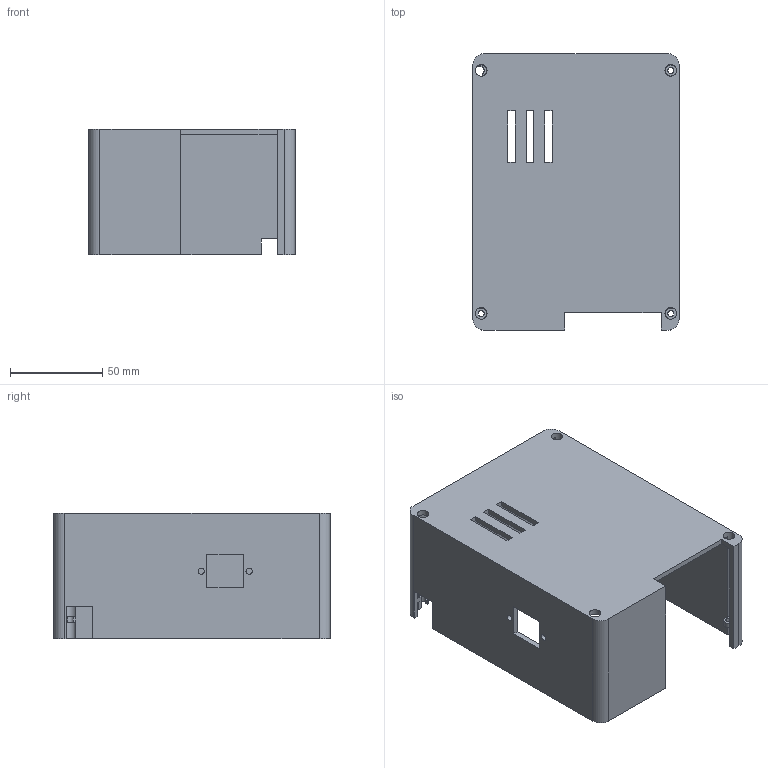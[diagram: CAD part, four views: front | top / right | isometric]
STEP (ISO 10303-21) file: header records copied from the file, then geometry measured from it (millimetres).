
FILE_DESCRIPTION(('Open CASCADE Model'),'2;1');
FILE_NAME('Open CASCADE Shape Model','2026-10-05T06:01:09',('Author'),( 'Open CASCADE'),'Open CASCADE STEP processor 7.8','Open CASCADE 7.8' ,'Unknown');
FILE_SCHEMA(('AUTOMOTIVE_DESIGN { 1 0 10303 214 1 1 1 1 }'));
Length unit declared in the file: millimetre
Products named in the file (1): Open CASCADE STEP translator 7.8 4
Bounding box: 112 x 150 x 68 mm (x, y, z)
Volume: 130683.8 mm3; surface area: 92667.5 mm2
Topology: 1 solids, 1 shells, 83 faces, 255 edges, 170 vertices
Faces by surface type: plane 57, cylinder 26
Full cylindrical faces by diameter (mm): 3.4 x2, 6.4 x4
Entity records: 6100 total; most frequent: CARTESIAN_POINT 1415, DIRECTION 751, ORIENTED_EDGE 510, PCURVE 510, DEFINITIONAL_REPRESENTATION 510, LINE 405, VECTOR 405, EDGE_CURVE 255
